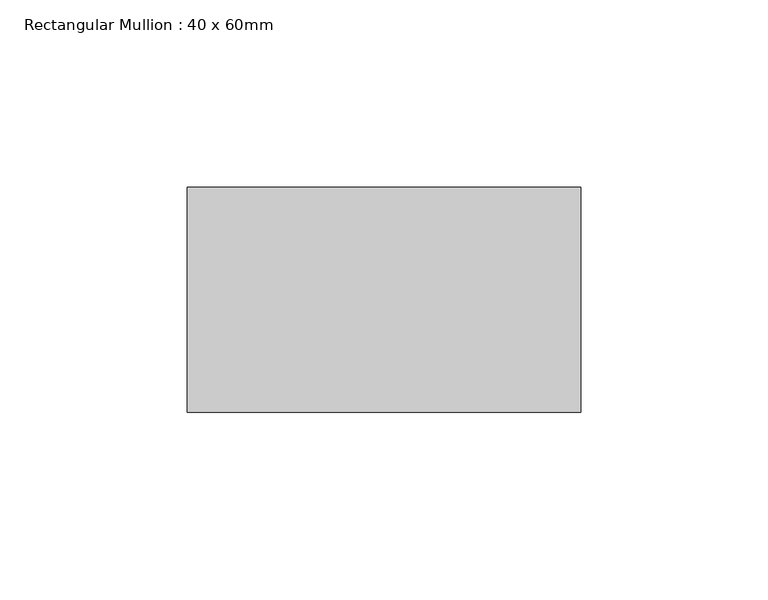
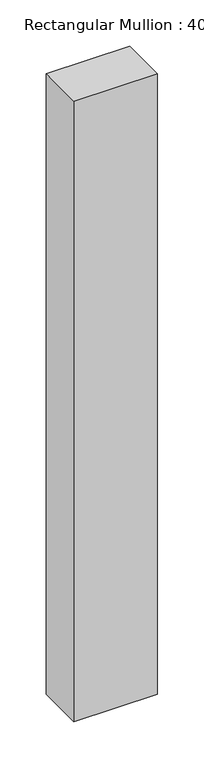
"""IFC4 building model written with IfcOpenShell, lengths in millimetres: member geometry, Rectangular Mullion : 40 x 60mm."""

import ifcopenshell
import ifcopenshell.guid

model = None  # the IFC model being written
_history = None  # IfcOwnerHistory: only IFC2X3 demands one
_inside = {}  # id of a spatial element -> (the spatial element, [elements in it])
_under = {}  # id of a project, library or spatial element -> (it, [spatial elements below it])
_declared = {}  # id of a project -> (the project, [libraries it declares])
_typed = {}  # id of a type object -> (the type object, [elements of that type])
_made_of = {}  # id of a material, layer set ... -> (it, [elements and type objects made of it])


def new_model(schema):
    """Start an empty IFC model of exactly this schema.

    Asked for "IFC4X3", IfcOpenShell would pick the latest addendum, in which some entities
    have other attributes; the version numbers below select the first issue.
    IFC2X3 requires an IfcOwnerHistory on every rooted entity: one is made here for all.
    """
    global model, _history
    if schema == "IFC4X3":
        model = ifcopenshell.file(schema_version=(4, 3, 0, 0))
    else:
        model = ifcopenshell.file(schema=schema)
    _inside.clear()
    _under.clear()
    _declared.clear()
    _typed.clear()
    _made_of.clear()
    _history = None
    if model.schema == "IFC2X3":
        org = make("IfcOrganization", Name="unknown")
        user = make(
            "IfcPersonAndOrganization",
            ThePerson=make("IfcPerson", FamilyName="unknown"),
            TheOrganization=org,
        )
        app = make(
            "IfcApplication",
            ApplicationDeveloper=org,
            Version="unknown",
            ApplicationFullName="unknown",
            ApplicationIdentifier="unknown",
        )
        _history = make(
            "IfcOwnerHistory",
            OwningUser=user,
            OwningApplication=app,
            ChangeAction="ADDED",
            CreationDate=0,
        )
    return model


def make(cls, **values):
    """One entity of the class cls with the attributes given. An attribute that is None is left unset."""
    return model.create_entity(
        cls, **{name: value for name, value in values.items() if value is not None}
    )


def rooted(cls, **values):
    """An entity with a GlobalId (a new one), such as an element, a storey or a relation."""
    return make(cls, GlobalId=ifcopenshell.guid.new(), OwnerHistory=_history, **values)


def si_unit(unit_type, name, prefix=None):
    """IfcSIUnit, for example si_unit("LENGTHUNIT", "METRE", prefix="MILLI")."""
    return make("IfcSIUnit", UnitType=unit_type, Prefix=prefix, Name=name)


def assignment(units):
    """IfcUnitAssignment: the units of a project."""
    return None if units is None else make("IfcUnitAssignment", Units=units)


def point(xyz):
    """IfcCartesianPoint."""
    return None if xyz is None else make("IfcCartesianPoint", Coordinates=xyz)


def direction(xyz):
    """IfcDirection."""
    return None if xyz is None else make("IfcDirection", DirectionRatios=xyz)


def frame(location, z_axis=None, x_axis=None):
    """IfcAxis2Placement3D, a coordinate frame: its origin and axes. An axis left out is left unset."""
    return make(
        "IfcAxis2Placement3D",
        Location=point(location),
        Axis=direction(z_axis),
        RefDirection=direction(x_axis),
    )


def origin():
    """The frame at (0, 0, 0) with its axes left unset."""
    return frame((0.0, 0.0, 0.0))


def place(relative_to, where):
    """IfcLocalPlacement: puts the frame where relative to a parent placement (None: the world)."""
    return make(
        "IfcLocalPlacement", PlacementRelTo=relative_to, RelativePlacement=where
    )


def context(
    kind, dimensions, precision=None, world=None, true_north=None, identifier=None
):
    """IfcGeometricRepresentationContext, for example the 3D "Model" context."""
    return make(
        "IfcGeometricRepresentationContext",
        ContextIdentifier=identifier,
        ContextType=kind,
        CoordinateSpaceDimension=dimensions,
        Precision=precision,
        WorldCoordinateSystem=world,
        TrueNorth=true_north,
    )


def project(units=None, contexts=None):
    """IfcProject with its units and contexts."""
    return rooted(
        "IfcProject",
        Name="project",
        RepresentationContexts=contexts,
        UnitsInContext=assignment(units),
    )


def spatial(cls, under=None, at=None, **own):
    """A site, building, storey or space (cls), placed at a placement, below another one or the project."""
    s = rooted(cls, ObjectPlacement=at, **own)
    if under is not None:
        _under.setdefault(under.id(), (under, []))[1].append(s)
    return s


def polyline(points):
    """IfcPolyline through the points."""
    return make("IfcPolyline", Points=[point(p) for p in points])


def outline(outer, holes=None, kind="AREA"):
    """IfcArbitraryClosedProfileDef: a profile drawn as a closed curve; with holes, ...WithVoids."""
    if holes is None:
        return make("IfcArbitraryClosedProfileDef", ProfileType=kind, OuterCurve=outer)
    return make(
        "IfcArbitraryProfileDefWithVoids",
        ProfileType=kind,
        OuterCurve=outer,
        InnerCurves=holes,
    )


def extrude(swept, where, along, depth):
    """IfcExtrudedAreaSolid: the profile swept, set in the frame where, extruded along a direction by depth."""
    return make(
        "IfcExtrudedAreaSolid",
        SweptArea=swept,
        Position=where,
        ExtrudedDirection=direction(along),
        Depth=depth,
    )


def shape(context_of_items, identifier, shape_type, items):
    """IfcShapeRepresentation: the items that make up one representation, for example the "Body"."""
    return make(
        "IfcShapeRepresentation",
        ContextOfItems=context_of_items,
        RepresentationIdentifier=identifier,
        RepresentationType=shape_type,
        Items=items,
    )


def source(mapping_origin, context_of_items, identifier, shape_type, items):
    """IfcRepresentationMap: a shape defined once, which mapped items show again and again."""
    return make(
        "IfcRepresentationMap",
        MappingOrigin=mapping_origin,
        MappedRepresentation=shape(context_of_items, identifier, shape_type, items),
    )


def transform(
    local_origin,
    x_axis=None,
    y_axis=None,
    z_axis=None,
    scale=None,
    scale2=None,
    scale3=None,
    uniform=True,
):
    """IfcCartesianTransformationOperator3D, or its non-uniform kind. x_axis, y_axis, z_axis: its Axis1, 2, 3."""
    if uniform:
        return make(
            "IfcCartesianTransformationOperator3D",
            Axis1=direction(x_axis),
            Axis2=direction(y_axis),
            LocalOrigin=point(local_origin),
            Scale=scale,
            Axis3=direction(z_axis),
        )
    return make(
        "IfcCartesianTransformationOperator3DnonUniform",
        Axis1=direction(x_axis),
        Axis2=direction(y_axis),
        LocalOrigin=point(local_origin),
        Scale=scale,
        Axis3=direction(z_axis),
        Scale2=scale2,
        Scale3=scale3,
    )


def mapped(mapping_source, mapping_target):
    """IfcMappedItem: shows the shape of a source again, moved by a transform."""
    return make(
        "IfcMappedItem", MappingSource=mapping_source, MappingTarget=mapping_target
    )


def made_of(thing, what):
    """Note that an element or type object is made of a material, layer set ...; save() writes the relation."""
    if what is not None:
        _made_of.setdefault(what.id(), (what, []))[1].append(thing)
    return thing


def element(
    cls,
    number,
    at=None,
    inside=None,
    cuts=None,
    type_object=None,
    material=None,
    context=None,
    identifier="Body",
    shape_type=None,
    held_by="IfcProductDefinitionShape",
    body=None,
    shapes=None,
    **own,
):
    """One element of the class cls, such as IfcWall. Its Tag is "e" and its number.

    at: its placement. inside: the storey or other place that contains it. cuts: it is an
    opening in that element (IfcRelVoidsElement). A single representation is given by context,
    identifier, shape_type and body (its items); several are given by shapes. held_by: the class
    of the entity that holds the representations. save() writes the other relations.
    """
    e = rooted(cls, Tag="e%d" % number, ObjectPlacement=at, **own)
    if body is not None:
        shapes = [shape(context, identifier, shape_type, body)]
    if shapes is not None:
        e.Representation = make(held_by, Representations=shapes)
    if inside is not None:
        _inside.setdefault(inside.id(), (inside, []))[1].append(e)
    if cuts is not None:
        rooted(
            "IfcRelVoidsElement", RelatingBuildingElement=cuts, RelatedOpeningElement=e
        )
    if type_object is not None:
        _typed.setdefault(type_object.id(), (type_object, []))[1].append(e)
    return made_of(e, material)


def aggregate(whole, parts):
    """IfcRelAggregates: a whole, such as a stair, and the parts it consists of."""
    return rooted("IfcRelAggregates", RelatingObject=whole, RelatedObjects=parts)


def save(model, path):
    """Write the relations noted so far, then the file.

    IfcRelAggregates (storeys below a building ...), IfcRelContainedInSpatialStructure (elements
    in a storey), IfcRelDefinesByType, IfcRelAssociatesMaterial and IfcRelDeclares: one each for
    every whole, place, type object, material and project.
    """
    for whole, parts in _under.values():
        aggregate(whole, parts)
    for where, things in _inside.values():
        rooted(
            "IfcRelContainedInSpatialStructure",
            RelatedElements=things,
            RelatingStructure=where,
        )
    for kind, things in _typed.values():
        rooted("IfcRelDefinesByType", RelatedObjects=things, RelatingType=kind)
    for what, things in _made_of.values():
        rooted("IfcRelAssociatesMaterial", RelatedObjects=things, RelatingMaterial=what)
    for by, libraries in _declared.values():
        rooted("IfcRelDeclares", RelatingContext=by, RelatedDefinitions=libraries)
    model.write(path)


def rectangular_mullion_40_x_60mm_769fba4e(model_context):
    return source(origin(), model_context, "Body", "SweptSolid", [
        extrude(outline(polyline([(0.0, -10.0), (0.0, -70.0), (-105.0, -70.0), (-105.0, -10.0), (0.0, -10.0)])), frame((0.0, 0.0, -822.5278286), z_axis=(0.0, 0.0, 1.0), x_axis=(1.0, 0.0, 0.0)), (0.0, 0.0, 1.0), 822.5278286),
    ])


if __name__ == "__main__":
    model = new_model("IFC4")
    model_context = context("Model", 3, world=origin())
    ifc_project = project(units=[si_unit("LENGTHUNIT", "METRE", prefix="MILLI")], contexts=[model_context])
    site = spatial("IfcSite", under=ifc_project)
    building = spatial("IfcBuilding", under=site)
    placement = place(None, origin())
    rectangular_mullion_40_x_60mm_shape = rectangular_mullion_40_x_60mm_769fba4e(model_context)
    element("IfcMember", 1, ObjectType="Rectangular Mullion : 40 x 60mm", at=placement, inside=building, context=model_context, shape_type="MappedRepresentation", body=[
        mapped(rectangular_mullion_40_x_60mm_shape, transform((0.0, 0.0, 0.0), x_axis=(1.0, 0.0, 0.0), y_axis=(0.0, 1.0, 0.0), z_axis=(0.0, 0.0, 1.0))),
    ])
    save(model, "model.ifc")
